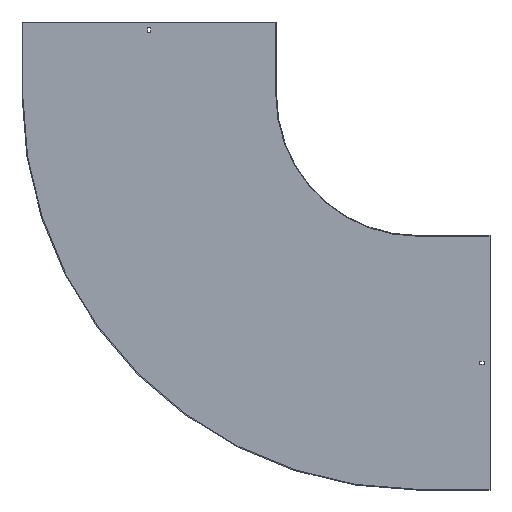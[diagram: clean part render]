
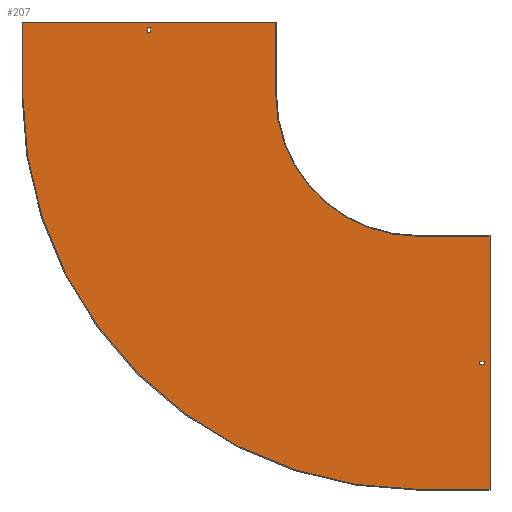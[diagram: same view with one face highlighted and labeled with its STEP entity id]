
A CAD part, front view. The second image highlights one B-rep face of the part: STEP entity #207.
In plain terms, the highlighted planar face has unit normal (0, -1, 0).
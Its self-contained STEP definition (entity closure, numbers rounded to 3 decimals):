
#3 = ORIENTED_EDGE ( 'NONE', *, *, #510, .F. ) ;
#5 = VECTOR ( 'NONE', #299, 1000. ) ;
#6 = CARTESIAN_POINT ( 'NONE',  ( -810., -1.5, 150. ) ) ;
#7 = EDGE_CURVE ( 'NONE', #521, #83, #158, .T. ) ;
#12 = CARTESIAN_POINT ( 'NONE',  ( -546.75, -1.5, 138. ) ) ;
#40 = VERTEX_POINT ( 'NONE', #674 ) ;
#42 = CARTESIAN_POINT ( 'NONE',  ( -810., -1.5, 0. ) ) ;
#45 = ORIENTED_EDGE ( 'NONE', *, *, #621, .F. ) ;
#46 = CIRCLE ( 'NONE', #174, 810. ) ;
#47 = DIRECTION ( 'NONE',  ( 1., 0., 0. ) ) ;
#61 = CARTESIAN_POINT ( 'NONE',  ( 150., -1.5, -290. ) ) ;
#62 = LINE ( 'NONE', #596, #116 ) ;
#82 = DIRECTION ( 'NONE',  ( -1., 0., 0. ) ) ;
#83 = VERTEX_POINT ( 'NONE', #180 ) ;
#85 = DIRECTION ( 'NONE',  ( 1., 0., 0. ) ) ;
#96 = CARTESIAN_POINT ( 'NONE',  ( 129., -1.5, 0. ) ) ;
#106 = DIRECTION ( 'NONE',  ( 0., 0., -1. ) ) ;
#116 = VECTOR ( 'NONE', #535, 1000. ) ;
#118 = EDGE_CURVE ( 'NONE', #467, #406, #757, .T. ) ;
#122 = ORIENTED_EDGE ( 'NONE', *, *, #825, .F. ) ;
#126 = ORIENTED_EDGE ( 'NONE', *, *, #173, .F. ) ;
#132 = AXIS2_PLACEMENT_3D ( 'NONE', #670, #611, #681 ) ;
#134 = EDGE_CURVE ( 'NONE', #241, #522, #704, .T. ) ;
#139 = CARTESIAN_POINT ( 'NONE',  ( 150., -1.5, -288.5 ) ) ;
#145 = FACE_BOUND ( 'NONE', #327, .T. ) ;
#146 = CARTESIAN_POINT ( 'NONE',  ( -553.25, -1.5, 0. ) ) ;
#148 = DIRECTION ( 'NONE',  ( 0., 0., 1. ) ) ;
#152 = CARTESIAN_POINT ( 'NONE',  ( 138., -1.5, 0. ) ) ;
#157 = LINE ( 'NONE', #579, #258 ) ;
#158 = CIRCLE ( 'NONE', #132, 290. ) ;
#166 = CARTESIAN_POINT ( 'NONE',  ( 138., -1.5, -553.25 ) ) ;
#169 = CARTESIAN_POINT ( 'NONE',  ( -810., -1.5, 0. ) ) ;
#173 = EDGE_CURVE ( 'NONE', #40, #815, #352, .T. ) ;
#174 = AXIS2_PLACEMENT_3D ( 'NONE', #645, #850, #833 ) ;
#175 = LINE ( 'NONE', #714, #604 ) ;
#177 = EDGE_LOOP ( 'NONE', ( #3, #328, #759, #126 ) ) ;
#180 = CARTESIAN_POINT ( 'NONE',  ( 0., -1.5, -290. ) ) ;
#194 = VERTEX_POINT ( 'NONE', #12 ) ;
#207 = ADVANCED_FACE ( 'NONE', ( #363, #748, #145 ), #287, .T. ) ;
#214 = CARTESIAN_POINT ( 'NONE',  ( -553.25, -1.5, 129. ) ) ;
#223 = VERTEX_POINT ( 'NONE', #294 ) ;
#233 = CARTESIAN_POINT ( 'NONE',  ( 0., -1.5, -810. ) ) ;
#235 = LINE ( 'NONE', #169, #244 ) ;
#236 = DIRECTION ( 'NONE',  ( 1., 0., 0. ) ) ;
#238 = EDGE_CURVE ( 'NONE', #83, #680, #832, .T. ) ;
#241 = VERTEX_POINT ( 'NONE', #709 ) ;
#244 = VECTOR ( 'NONE', #366, 1000. ) ;
#245 = VECTOR ( 'NONE', #623, 1000. ) ;
#252 = ORIENTED_EDGE ( 'NONE', *, *, #359, .T. ) ;
#258 = VECTOR ( 'NONE', #85, 1000. ) ;
#265 = EDGE_CURVE ( 'NONE', #680, #241, #530, .T. ) ;
#272 = CARTESIAN_POINT ( 'NONE',  ( 0., -1.5, 138. ) ) ;
#273 = VECTOR ( 'NONE', #439, 1000. ) ;
#279 = EDGE_CURVE ( 'NONE', #781, #770, #62, .T. ) ;
#287 = PLANE ( 'NONE',  #473 ) ;
#291 = ORIENTED_EDGE ( 'NONE', *, *, #862, .F. ) ;
#294 = CARTESIAN_POINT ( 'NONE',  ( -290., -1.5, 150. ) ) ;
#296 = ORIENTED_EDGE ( 'NONE', *, *, #238, .F. ) ;
#299 = DIRECTION ( 'NONE',  ( 0., 0., -1. ) ) ;
#307 = ORIENTED_EDGE ( 'NONE', *, *, #265, .F. ) ;
#327 = EDGE_LOOP ( 'NONE', ( #252, #491, #839, #512 ) ) ;
#328 = ORIENTED_EDGE ( 'NONE', *, *, #118, .F. ) ;
#352 = LINE ( 'NONE', #96, #5 ) ;
#354 = ORIENTED_EDGE ( 'NONE', *, *, #852, .F. ) ;
#359 = EDGE_CURVE ( 'NONE', #856, #194, #465, .T. ) ;
#363 = FACE_BOUND ( 'NONE', #177, .T. ) ;
#366 = DIRECTION ( 'NONE',  ( 0., 0., 1. ) ) ;
#375 = VECTOR ( 'NONE', #801, 1000. ) ;
#379 = CARTESIAN_POINT ( 'NONE',  ( 129., -1.5, -553.25 ) ) ;
#387 = VECTOR ( 'NONE', #554, 1000. ) ;
#391 = EDGE_LOOP ( 'NONE', ( #291, #122, #45, #562, #307, #296, #849, #354 ) ) ;
#406 = VERTEX_POINT ( 'NONE', #758 ) ;
#418 = CARTESIAN_POINT ( 'NONE',  ( 0., -1.5, 0. ) ) ;
#428 = LINE ( 'NONE', #629, #528 ) ;
#439 = DIRECTION ( 'NONE',  ( 0., 0., -1. ) ) ;
#440 = CARTESIAN_POINT ( 'NONE',  ( 0., -1.5, -290. ) ) ;
#444 = LINE ( 'NONE', #627, #273 ) ;
#465 = LINE ( 'NONE', #272, #375 ) ;
#467 = VERTEX_POINT ( 'NONE', #166 ) ;
#473 = AXIS2_PLACEMENT_3D ( 'NONE', #418, #683, #618 ) ;
#474 = DIRECTION ( 'NONE',  ( 0., 0., -1. ) ) ;
#491 = ORIENTED_EDGE ( 'NONE', *, *, #636, .T. ) ;
#500 = VECTOR ( 'NONE', #474, 1000. ) ;
#510 = EDGE_CURVE ( 'NONE', #406, #40, #428, .T. ) ;
#512 = ORIENTED_EDGE ( 'NONE', *, *, #523, .T. ) ;
#521 = VERTEX_POINT ( 'NONE', #829 ) ;
#522 = VERTEX_POINT ( 'NONE', #233 ) ;
#523 = EDGE_CURVE ( 'NONE', #770, #856, #750, .T. ) ;
#524 = LINE ( 'NONE', #773, #677 ) ;
#528 = VECTOR ( 'NONE', #82, 1000. ) ;
#530 = LINE ( 'NONE', #139, #500 ) ;
#535 = DIRECTION ( 'NONE',  ( -1., 0., 0. ) ) ;
#538 = EDGE_CURVE ( 'NONE', #815, #467, #524, .T. ) ;
#553 = CARTESIAN_POINT ( 'NONE',  ( 150., -1.5, -810. ) ) ;
#554 = DIRECTION ( 'NONE',  ( 0., 0., 1. ) ) ;
#555 = VECTOR ( 'NONE', #236, 1000. ) ;
#562 = ORIENTED_EDGE ( 'NONE', *, *, #134, .F. ) ;
#579 = CARTESIAN_POINT ( 'NONE',  ( -811.5, -1.5, 150. ) ) ;
#596 = CARTESIAN_POINT ( 'NONE',  ( 0., -1.5, 129. ) ) ;
#604 = VECTOR ( 'NONE', #106, 1000. ) ;
#611 = DIRECTION ( 'NONE',  ( 0., -1., 0. ) ) ;
#618 = DIRECTION ( 'NONE',  ( 0., 0., -1. ) ) ;
#621 = EDGE_CURVE ( 'NONE', #522, #631, #46, .T. ) ;
#623 = DIRECTION ( 'NONE',  ( -1., 0., 0. ) ) ;
#627 = CARTESIAN_POINT ( 'NONE',  ( -290., -1.5, 150. ) ) ;
#629 = CARTESIAN_POINT ( 'NONE',  ( 0., -1.5, -546.75 ) ) ;
#631 = VERTEX_POINT ( 'NONE', #42 ) ;
#636 = EDGE_CURVE ( 'NONE', #194, #781, #175, .T. ) ;
#645 = CARTESIAN_POINT ( 'NONE',  ( 0., -1.5, 0. ) ) ;
#670 = CARTESIAN_POINT ( 'NONE',  ( 0., -1.5, 0. ) ) ;
#674 = CARTESIAN_POINT ( 'NONE',  ( 129., -1.5, -546.75 ) ) ;
#677 = VECTOR ( 'NONE', #47, 1000. ) ;
#680 = VERTEX_POINT ( 'NONE', #61 ) ;
#681 = DIRECTION ( 'NONE',  ( 0., 0., -1. ) ) ;
#683 = DIRECTION ( 'NONE',  ( 0., -1., 0. ) ) ;
#697 = VERTEX_POINT ( 'NONE', #6 ) ;
#704 = LINE ( 'NONE', #553, #245 ) ;
#709 = CARTESIAN_POINT ( 'NONE',  ( 150., -1.5, -810. ) ) ;
#714 = CARTESIAN_POINT ( 'NONE',  ( -546.75, -1.5, 0. ) ) ;
#745 = CARTESIAN_POINT ( 'NONE',  ( -546.75, -1.5, 129. ) ) ;
#748 = FACE_OUTER_BOUND ( 'NONE', #391, .T. ) ;
#750 = LINE ( 'NONE', #146, #387 ) ;
#757 = LINE ( 'NONE', #152, #797 ) ;
#758 = CARTESIAN_POINT ( 'NONE',  ( 138., -1.5, -546.75 ) ) ;
#759 = ORIENTED_EDGE ( 'NONE', *, *, #538, .F. ) ;
#761 = CARTESIAN_POINT ( 'NONE',  ( -553.25, -1.5, 138. ) ) ;
#770 = VERTEX_POINT ( 'NONE', #214 ) ;
#773 = CARTESIAN_POINT ( 'NONE',  ( 0., -1.5, -553.25 ) ) ;
#781 = VERTEX_POINT ( 'NONE', #745 ) ;
#797 = VECTOR ( 'NONE', #148, 1000. ) ;
#801 = DIRECTION ( 'NONE',  ( 1., 0., 0. ) ) ;
#815 = VERTEX_POINT ( 'NONE', #379 ) ;
#825 = EDGE_CURVE ( 'NONE', #631, #697, #235, .T. ) ;
#829 = CARTESIAN_POINT ( 'NONE',  ( -290., -1.5, 0. ) ) ;
#832 = LINE ( 'NONE', #440, #555 ) ;
#833 = DIRECTION ( 'NONE',  ( 0., 0., -1. ) ) ;
#839 = ORIENTED_EDGE ( 'NONE', *, *, #279, .T. ) ;
#849 = ORIENTED_EDGE ( 'NONE', *, *, #7, .F. ) ;
#850 = DIRECTION ( 'NONE',  ( 0., 1., 0. ) ) ;
#852 = EDGE_CURVE ( 'NONE', #223, #521, #444, .T. ) ;
#856 = VERTEX_POINT ( 'NONE', #761 ) ;
#862 = EDGE_CURVE ( 'NONE', #697, #223, #157, .T. ) ;
